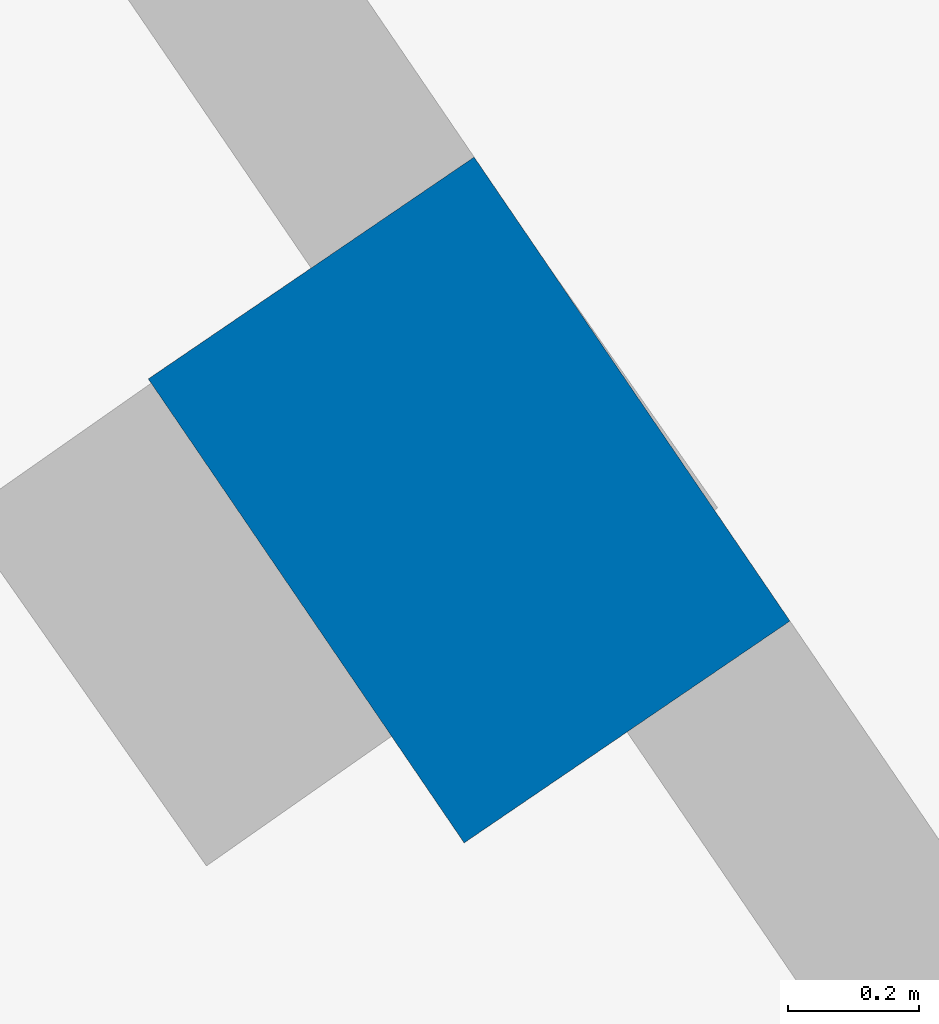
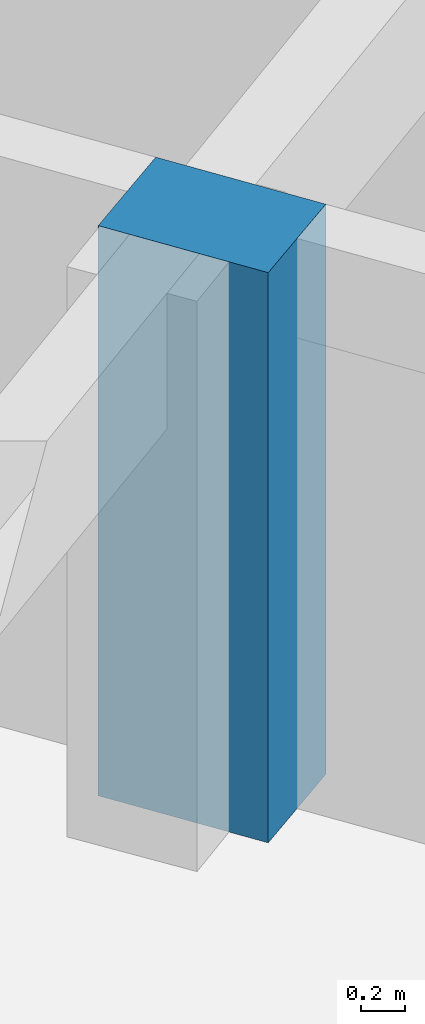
# One storey, part 18 of 112: 1 wall.
"""IFC2X3 building model written with IfcOpenShell, lengths in millimetres."""

from ifc_helpers import new_model, entity, si_unit, converted_unit, derived_unit, direction, frame, frame_2d, origin, place, context, subcontext, project, spatial, rectangle, extrude, material, layer, layer_set, layer_usage, type_object, element, save


model = new_model("IFC2X3")

# Units and contexts
model_context = context("Model", 3, precision=0.01, world=origin(), true_north=direction((6.123031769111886e-17, 1.0)))
body_context = subcontext(model_context, "Body", "Model", "MODEL_VIEW")
ifc_project = project(units=[si_unit("LENGTHUNIT", "METRE", prefix="MILLI"), si_unit("AREAUNIT", "SQUARE_METRE"), si_unit("VOLUMEUNIT", "CUBIC_METRE"), converted_unit("PLANEANGLEUNIT", "DEGREE", entity("IfcRatioMeasure", 0.017453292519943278), si_unit("PLANEANGLEUNIT", "RADIAN"), dimensions=[0, 0, 0, 0, 0, 0, 0]), si_unit("MASSUNIT", "GRAM", prefix="KILO"), derived_unit("MASSDENSITYUNIT", [(si_unit("MASSUNIT", "GRAM", prefix="KILO"), 1), (si_unit("LENGTHUNIT", "METRE"), -3)]), derived_unit("MOMENTOFINERTIAUNIT", [(si_unit("LENGTHUNIT", "METRE"), 4)]), si_unit("TIMEUNIT", "SECOND"), si_unit("FREQUENCYUNIT", "HERTZ"), si_unit("THERMODYNAMICTEMPERATUREUNIT", "DEGREE_CELSIUS"), derived_unit("THERMALTRANSMITTANCEUNIT", [(si_unit("MASSUNIT", "GRAM", prefix="KILO"), 1), (si_unit("THERMODYNAMICTEMPERATUREUNIT", "KELVIN"), -1), (si_unit("TIMEUNIT", "SECOND"), -3)]), derived_unit("THERMALCONDUCTANCEUNIT", [(si_unit("MASSUNIT", "GRAM", prefix="KILO"), 1), (si_unit("LENGTHUNIT", "METRE"), 1), (si_unit("THERMODYNAMICTEMPERATUREUNIT", "KELVIN"), -1), (si_unit("TIMEUNIT", "SECOND"), -3)]), derived_unit("VOLUMETRICFLOWRATEUNIT", [(si_unit("LENGTHUNIT", "METRE"), 3), (si_unit("TIMEUNIT", "SECOND"), -1)]), derived_unit("MASSFLOWRATEUNIT", [(si_unit("MASSUNIT", "GRAM", prefix="KILO"), 1), (si_unit("TIMEUNIT", "SECOND"), -1)]), derived_unit("ROTATIONALFREQUENCYUNIT", [(si_unit("TIMEUNIT", "SECOND"), -1)]), si_unit("ELECTRICCURRENTUNIT", "AMPERE"), si_unit("ELECTRICVOLTAGEUNIT", "VOLT"), si_unit("POWERUNIT", "WATT"), converted_unit("FORCEUNIT", "KIP", entity("IfcRatioMeasure", 2.088543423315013e-05), si_unit("FORCEUNIT", "NEWTON"), dimensions=[1, 1, -2, 0, 0, 0, 0]), si_unit("ILLUMINANCEUNIT", "LUX"), si_unit("LUMINOUSFLUXUNIT", "LUMEN"), si_unit("LUMINOUSINTENSITYUNIT", "CANDELA"), derived_unit("USERDEFINED", [(si_unit("MASSUNIT", "GRAM", prefix="KILO"), -1), (si_unit("LENGTHUNIT", "METRE"), -2), (si_unit("TIMEUNIT", "SECOND"), 3), (si_unit("LUMINOUSFLUXUNIT", "LUMEN"), 1)]), derived_unit("USERDEFINED", [(si_unit("MASSUNIT", "GRAM", prefix="KILO"), 1), (si_unit("LENGTHUNIT", "METRE"), 3), (si_unit("TIMEUNIT", "SECOND"), -3), (si_unit("ELECTRICCURRENTUNIT", "AMPERE"), -2)]), derived_unit("USERDEFINED", [(si_unit("LENGTHUNIT", "METRE"), 2), (si_unit("TIMEUNIT", "SECOND"), -2)]), derived_unit("SOUNDPOWERUNIT", [(si_unit("MASSUNIT", "GRAM", prefix="KILO"), 1), (si_unit("LENGTHUNIT", "METRE"), 2), (si_unit("TIMEUNIT", "SECOND"), -3)]), derived_unit("SOUNDPRESSUREUNIT", [(si_unit("MASSUNIT", "GRAM", prefix="KILO"), 1), (si_unit("LENGTHUNIT", "METRE"), -1), (si_unit("TIMEUNIT", "SECOND"), -2)]), derived_unit("LINEARVELOCITYUNIT", [(si_unit("LENGTHUNIT", "METRE"), 1), (si_unit("TIMEUNIT", "SECOND"), -1)]), si_unit("PRESSUREUNIT", "PASCAL"), derived_unit("USERDEFINED", [(si_unit("LENGTHUNIT", "METRE"), -2), (si_unit("MASSUNIT", "GRAM", prefix="KILO"), 1), (si_unit("TIMEUNIT", "SECOND"), -2)]), derived_unit("LINEARFORCEUNIT", [(si_unit("MASSUNIT", "GRAM", prefix="KILO"), 1), (si_unit("LENGTHUNIT", "METRE"), 1), (si_unit("TIMEUNIT", "SECOND"), -2), (si_unit("LENGTHUNIT", "METRE"), -1)]), derived_unit("PLANARFORCEUNIT", [(si_unit("MASSUNIT", "GRAM", prefix="KILO"), 1), (si_unit("LENGTHUNIT", "METRE"), 1), (si_unit("TIMEUNIT", "SECOND"), -2), (si_unit("LENGTHUNIT", "METRE"), -2)]), derived_unit("SPECIFICHEATCAPACITYUNIT", [(si_unit("LENGTHUNIT", "METRE"), 2), (si_unit("TIMEUNIT", "SECOND"), -2), (si_unit("THERMODYNAMICTEMPERATUREUNIT", "KELVIN"), -1)]), derived_unit("VAPORPERMEABILITYUNIT", [(si_unit("TIMEUNIT", "SECOND"), 1), (si_unit("LENGTHUNIT", "METRE"), -1)]), derived_unit("DYNAMICVISCOSITYUNIT", [(si_unit("MASSUNIT", "GRAM", prefix="KILO"), 1), (si_unit("LENGTHUNIT", "METRE"), -1), (si_unit("TIMEUNIT", "SECOND"), -1)]), derived_unit("THERMALEXPANSIONCOEFFICIENTUNIT", [(si_unit("THERMODYNAMICTEMPERATUREUNIT", "KELVIN"), -1)])], contexts=[model_context])

# Site, building, storey
site_placement = place(None, frame((0.0, 0.0, 0.0), z_axis=(0.0, 0.0, 1.0), x_axis=(0.8191520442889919, 0.5735764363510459, 0.0)))
site = spatial("IfcSite", under=ifc_project, at=site_placement, Name="Default", CompositionType="ELEMENT")
building_placement = place(site_placement, origin())
building = spatial("IfcBuilding", under=site, at=building_placement, CompositionType="ELEMENT")
storey_placement = place(building_placement, frame((0.0, 0.0, -3600.0)))
storey = spatial("IfcBuildingStorey", under=building, at=storey_placement, Name="0.UG -3.60", CompositionType="ELEMENT", Elevation=-3600.0000000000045)

# Wall
ifc_material = material(Name="Analytical Wall Surface_CJC")
ifc_layer = layer(ifc_material, 600.0)
ifc_layer_set = layer_set([ifc_layer], Name="Basic Wall:Wand_Innen_60")
ifc_layer_usage = layer_usage(ifc_layer_set, "AXIS2", "POSITIVE", -300.0)
wall_type = type_object("IfcWallType", Name="Basic Wall:Wand_Innen_60", PredefinedType="STANDARD", material=ifc_layer_set)
wall_placement = place(storey_placement, frame((-217037.4257073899, 96871.00400790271, 300.0), z_axis=(0.0, 0.0, 1.0), x_axis=(0.013145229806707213, 0.9999135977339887, 0.0)))
element("IfcWallStandardCase", 1, at=wall_placement, inside=storey, type_object=wall_type, material=ifc_layer_usage, Name="Basic Wall:Wand_Innen_60", ObjectType="Basic Wall:Wand_Innen_60", context=body_context, shape_type="SweptSolid", body=[
    extrude(rectangle(XDim=854.4442828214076, YDim=599.9999999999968, at=frame_2d((427.2221414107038, -4.206412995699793e-12), x_axis=(-1.0, 0.0))), origin(), (0.0, 0.0, 1.0), 3150.0),
])

save(model, "model.ifc")
